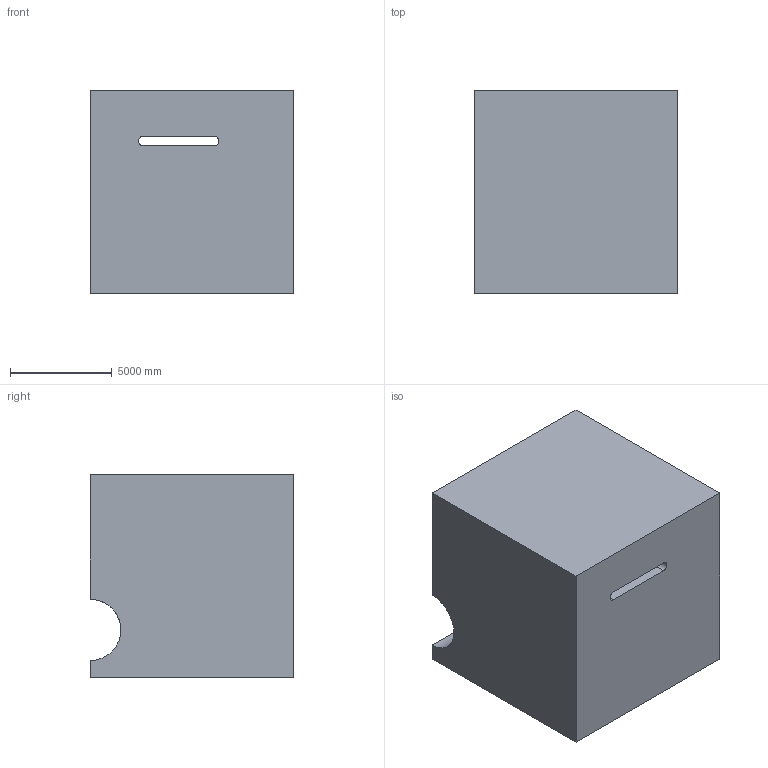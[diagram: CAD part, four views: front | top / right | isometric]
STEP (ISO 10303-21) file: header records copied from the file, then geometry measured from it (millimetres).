
FILE_DESCRIPTION (( 'STEP AP203' ), '1' );
FILE_NAME ('22.STEP', '2022-09-02T13:42:32', ( 'user' ), ( '' ), 'SwSTEP 2.0', 'SolidWorks 2021', '' );
FILE_SCHEMA (( 'CONFIG_CONTROL_DESIGN' ));
Length unit declared in the file: centimetre
Products named in the file (1): 22
Bounding box: 10000 x 10000 x 10000 mm (x, y, z)
Volume: 911647584992.5 mm3; surface area: 741134705.9 mm2
Topology: 1 solids, 1 shells, 15 faces, 39 edges, 26 vertices
Faces by surface type: plane 10, cylinder 5
Entity records: 753 total; most frequent: CARTESIAN_POINT 294, DIRECTION 79, ORIENTED_EDGE 78, EDGE_CURVE 39, LINE 27, VECTOR 27, VERTEX_POINT 26, AXIS2_PLACEMENT_3D 26
